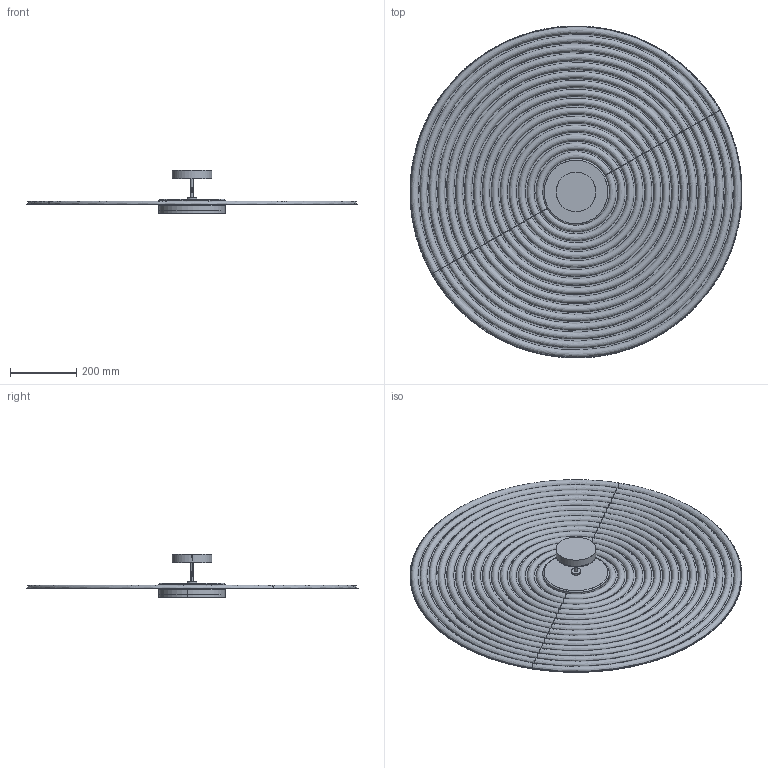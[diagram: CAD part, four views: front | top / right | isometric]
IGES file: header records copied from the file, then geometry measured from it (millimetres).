
Start section: SolidWorks IGES file using analytic representation for surfaces
Global section: file name: C:\Users\Agustin\Desktop\ARNOLD\2024\proyectos\acustico\TICO_A1095_100.IGS; native system: SolidWorks 2018; preprocessor: SolidWorks 2018; author: Agustin; date: 241114.130227; units: millimetre
Bounding box: 1001.81 x 1001.81 x 130 mm (x, y, z)
Surface area: 2414800.4 mm2 (no closed solid volume)
Topology: 0 solids, 0 shells, 299 faces, 5447 edges, 5447 vertices
Faces by surface type: bspline 160, revolution 139
